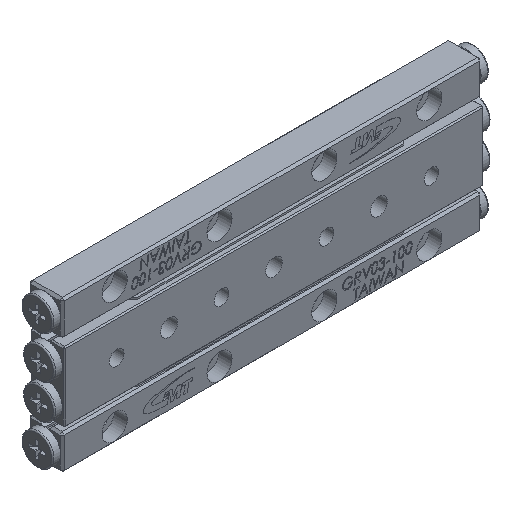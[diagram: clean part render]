
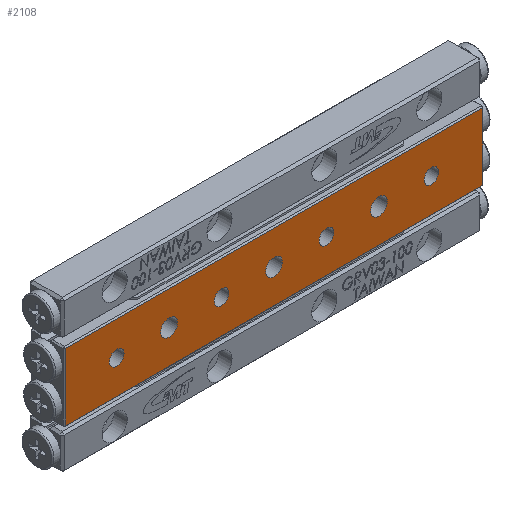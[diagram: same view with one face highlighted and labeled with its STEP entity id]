
A CAD part, isometric view. The second image highlights one B-rep face of the part: STEP entity #2108.
In plain terms, the highlighted planar face has unit normal (0, -1, 0).
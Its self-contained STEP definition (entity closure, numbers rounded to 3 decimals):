
#221 = PLANE ( 'NONE',  #34609 ) ;
#921 = EDGE_CURVE ( 'NONE', #4629, #4629, #16335, .T. ) ;
#1096 = CARTESIAN_POINT ( 'NONE',  ( 0., 0., 0. ) ) ;
#1209 = ORIENTED_EDGE ( 'NONE', *, *, #3362, .T. ) ;
#1484 = DIRECTION ( 'NONE',  ( 0., 0., 1. ) ) ;
#1515 = CARTESIAN_POINT ( 'NONE',  ( -50., 0., -8. ) ) ;
#1937 = CIRCLE ( 'NONE', #22918, 1.75 ) ;
#2014 = VECTOR ( 'NONE', #32208, 1000. ) ;
#2108 = ADVANCED_FACE ( 'NONE', ( #5489, #9050, #31578, #23127, #14511, #20512, #2683, #16958 ), #221, .F. ) ;
#2569 = VERTEX_POINT ( 'NONE', #30736 ) ;
#2683 = FACE_BOUND ( 'NONE', #5661, .T. ) ;
#3046 = CARTESIAN_POINT ( 'NONE',  ( -50., 0., 8.3 ) ) ;
#3122 = DIRECTION ( 'NONE',  ( 0., 0., 1. ) ) ;
#3362 = EDGE_CURVE ( 'NONE', #30009, #30009, #7076, .T. ) ;
#3627 = AXIS2_PLACEMENT_3D ( 'NONE', #26588, #12327, #3122 ) ;
#3647 = DIRECTION ( 'NONE',  ( 0., 1., 0. ) ) ;
#4014 = CARTESIAN_POINT ( 'NONE',  ( -25., 0., 0. ) ) ;
#4097 = VERTEX_POINT ( 'NONE', #24181 ) ;
#4369 = CARTESIAN_POINT ( 'NONE',  ( 12.5, 0., 0. ) ) ;
#4490 = CARTESIAN_POINT ( 'NONE',  ( -50., 0., 8. ) ) ;
#4629 = VERTEX_POINT ( 'NONE', #27188 ) ;
#5142 = DIRECTION ( 'NONE',  ( 0., 1., 0. ) ) ;
#5341 = CARTESIAN_POINT ( 'NONE',  ( -49.7, 0., 8.3 ) ) ;
#5489 = FACE_OUTER_BOUND ( 'NONE', #30176, .T. ) ;
#5516 = EDGE_LOOP ( 'NONE', ( #1209 ) ) ;
#5661 = EDGE_LOOP ( 'NONE', ( #21719 ) ) ;
#6070 = VECTOR ( 'NONE', #6742, 1000. ) ;
#6281 = CARTESIAN_POINT ( 'NONE',  ( 37.5, 0., 0. ) ) ;
#6481 = VERTEX_POINT ( 'NONE', #24369 ) ;
#6742 = DIRECTION ( 'NONE',  ( -1., 0., 0. ) ) ;
#7076 = CIRCLE ( 'NONE', #28070, 1.75 ) ;
#7260 = EDGE_LOOP ( 'NONE', ( #11313 ) ) ;
#8329 = CARTESIAN_POINT ( 'NONE',  ( -37.5, 0., 0. ) ) ;
#8473 = EDGE_LOOP ( 'NONE', ( #13053 ) ) ;
#9050 = FACE_BOUND ( 'NONE', #13633, .T. ) ;
#9310 = LINE ( 'NONE', #20762, #2014 ) ;
#9704 = ORIENTED_EDGE ( 'NONE', *, *, #18974, .T. ) ;
#10179 = DIRECTION ( 'NONE',  ( 0., 0., 1. ) ) ;
#10826 = VERTEX_POINT ( 'NONE', #36174 ) ;
#11197 = VERTEX_POINT ( 'NONE', #16645 ) ;
#11224 = ORIENTED_EDGE ( 'NONE', *, *, #921, .T. ) ;
#11313 = ORIENTED_EDGE ( 'NONE', *, *, #30261, .T. ) ;
#12056 = DIRECTION ( 'NONE',  ( 0., 1., 0. ) ) ;
#12074 = ORIENTED_EDGE ( 'NONE', *, *, #19531, .T. ) ;
#12327 = DIRECTION ( 'NONE',  ( 0., 1., 0. ) ) ;
#12836 = ORIENTED_EDGE ( 'NONE', *, *, #30996, .T. ) ;
#13053 = ORIENTED_EDGE ( 'NONE', *, *, #14228, .T. ) ;
#13302 = EDGE_CURVE ( 'NONE', #10826, #10826, #23932, .T. ) ;
#13446 = CIRCLE ( 'NONE', #35021, 2. ) ;
#13633 = EDGE_LOOP ( 'NONE', ( #28588 ) ) ;
#14030 = VERTEX_POINT ( 'NONE', #27737 ) ;
#14228 = EDGE_CURVE ( 'NONE', #28472, #28472, #25180, .T. ) ;
#14511 = FACE_BOUND ( 'NONE', #30947, .T. ) ;
#15104 = DIRECTION ( 'NONE',  ( 0., 0., 1. ) ) ;
#15825 = DIRECTION ( 'NONE',  ( 0., 1., 0. ) ) ;
#16335 = CIRCLE ( 'NONE', #25930, 2. ) ;
#16645 = CARTESIAN_POINT ( 'NONE',  ( 25., 0., 2. ) ) ;
#16814 = CIRCLE ( 'NONE', #3627, 2. ) ;
#16958 = FACE_BOUND ( 'NONE', #5516, .T. ) ;
#18121 = DIRECTION ( 'NONE',  ( 0., 1., 0. ) ) ;
#18974 = EDGE_CURVE ( 'NONE', #6481, #4097, #33154, .T. ) ;
#19531 = EDGE_CURVE ( 'NONE', #33564, #6481, #32467, .T. ) ;
#19766 = AXIS2_PLACEMENT_3D ( 'NONE', #4369, #15825, #36432 ) ;
#20512 = FACE_BOUND ( 'NONE', #8473, .T. ) ;
#20613 = CARTESIAN_POINT ( 'NONE',  ( 49.7, 0., -8. ) ) ;
#20762 = CARTESIAN_POINT ( 'NONE',  ( 49.7, 0., 8.3 ) ) ;
#21547 = CARTESIAN_POINT ( 'NONE',  ( 37.5, 0., 1.75 ) ) ;
#21719 = ORIENTED_EDGE ( 'NONE', *, *, #13302, .T. ) ;
#22918 = AXIS2_PLACEMENT_3D ( 'NONE', #26532, #33083, #10179 ) ;
#23127 = FACE_BOUND ( 'NONE', #27899, .T. ) ;
#23813 = DIRECTION ( 'NONE',  ( 0., 1., 0. ) ) ;
#23932 = CIRCLE ( 'NONE', #19766, 1.75 ) ;
#24181 = CARTESIAN_POINT ( 'NONE',  ( -49.7, 0., -8. ) ) ;
#24369 = CARTESIAN_POINT ( 'NONE',  ( -49.7, 0., 8. ) ) ;
#24583 = EDGE_CURVE ( 'NONE', #11197, #11197, #16814, .T. ) ;
#25180 = CIRCLE ( 'NONE', #34753, 1.75 ) ;
#25501 = ORIENTED_EDGE ( 'NONE', *, *, #27743, .T. ) ;
#25593 = DIRECTION ( 'NONE',  ( 0., 0., 1. ) ) ;
#25930 = AXIS2_PLACEMENT_3D ( 'NONE', #4014, #3647, #15104 ) ;
#26532 = CARTESIAN_POINT ( 'NONE',  ( -12.5, 0., 0. ) ) ;
#26588 = CARTESIAN_POINT ( 'NONE',  ( 25., 0., 0. ) ) ;
#27188 = CARTESIAN_POINT ( 'NONE',  ( -25., 0., 2. ) ) ;
#27737 = CARTESIAN_POINT ( 'NONE',  ( 0., 0., 2. ) ) ;
#27743 = EDGE_CURVE ( 'NONE', #2569, #2569, #1937, .T. ) ;
#27899 = EDGE_LOOP ( 'NONE', ( #25501 ) ) ;
#28070 = AXIS2_PLACEMENT_3D ( 'NONE', #6281, #18121, #32191 ) ;
#28472 = VERTEX_POINT ( 'NONE', #36347 ) ;
#28588 = ORIENTED_EDGE ( 'NONE', *, *, #24583, .T. ) ;
#29642 = EDGE_CURVE ( 'NONE', #35746, #33564, #9310, .T. ) ;
#30009 = VERTEX_POINT ( 'NONE', #21547 ) ;
#30143 = VECTOR ( 'NONE', #30345, 1000. ) ;
#30176 = EDGE_LOOP ( 'NONE', ( #9704, #12836, #32541, #12074 ) ) ;
#30261 = EDGE_CURVE ( 'NONE', #14030, #14030, #13446, .T. ) ;
#30273 = VECTOR ( 'NONE', #30785, 1000. ) ;
#30345 = DIRECTION ( 'NONE',  ( 0., 0., -1. ) ) ;
#30736 = CARTESIAN_POINT ( 'NONE',  ( -12.5, 0., 1.75 ) ) ;
#30785 = DIRECTION ( 'NONE',  ( 1., 0., 0. ) ) ;
#30872 = DIRECTION ( 'NONE',  ( 0., 0., 1. ) ) ;
#30947 = EDGE_LOOP ( 'NONE', ( #11224 ) ) ;
#30996 = EDGE_CURVE ( 'NONE', #4097, #35746, #35851, .T. ) ;
#31578 = FACE_BOUND ( 'NONE', #7260, .T. ) ;
#32191 = DIRECTION ( 'NONE',  ( 0., 0., 1. ) ) ;
#32208 = DIRECTION ( 'NONE',  ( 0., 0., 1. ) ) ;
#32467 = LINE ( 'NONE', #4490, #6070 ) ;
#32541 = ORIENTED_EDGE ( 'NONE', *, *, #29642, .T. ) ;
#33083 = DIRECTION ( 'NONE',  ( 0., 1., 0. ) ) ;
#33154 = LINE ( 'NONE', #5341, #30143 ) ;
#33564 = VERTEX_POINT ( 'NONE', #33728 ) ;
#33728 = CARTESIAN_POINT ( 'NONE',  ( 49.7, 0., 8. ) ) ;
#34609 = AXIS2_PLACEMENT_3D ( 'NONE', #3046, #12056, #25593 ) ;
#34753 = AXIS2_PLACEMENT_3D ( 'NONE', #8329, #5142, #30872 ) ;
#35021 = AXIS2_PLACEMENT_3D ( 'NONE', #1096, #23813, #1484 ) ;
#35746 = VERTEX_POINT ( 'NONE', #20613 ) ;
#35851 = LINE ( 'NONE', #1515, #30273 ) ;
#36174 = CARTESIAN_POINT ( 'NONE',  ( 12.5, 0., 1.75 ) ) ;
#36347 = CARTESIAN_POINT ( 'NONE',  ( -37.5, 0., 1.75 ) ) ;
#36432 = DIRECTION ( 'NONE',  ( 0., 0., 1. ) ) ;
